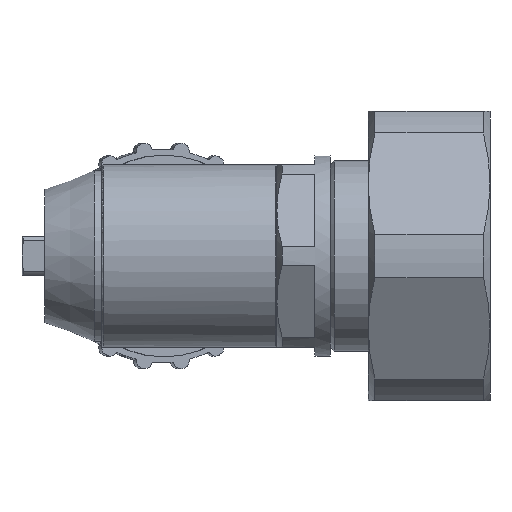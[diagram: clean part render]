
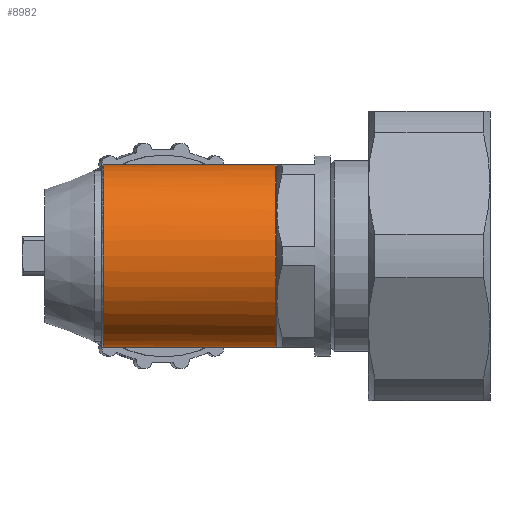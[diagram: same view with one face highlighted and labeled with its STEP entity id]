
A CAD part, left-side view. The second image highlights one B-rep face of the part: STEP entity #8982.
In plain terms, the highlighted cylindrical face has radius 12 mm (diameter 24 mm), a full revolution.
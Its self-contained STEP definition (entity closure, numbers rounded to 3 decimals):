
#8075=CARTESIAN_POINT('',(12.,16.2,0.));
#8076=VERTEX_POINT('',#8075);
#8077=CARTESIAN_POINT('',(0.0,16.2,0.0));
#8078=DIRECTION('',(0.0,-1.0,0.0));
#8079=DIRECTION('',(-1.0,0.0,0.0));
#8080=AXIS2_PLACEMENT_3D('',#8077,#8078,#8079);
#8081=CIRCLE('',#8080,12.);
#8082=EDGE_CURVE('',#8076,#8076,#8081,.T.);
#8841=CARTESIAN_POINT('',(9.162,29.763,7.75));
#8842=VERTEX_POINT('',#8841);
#8843=CARTESIAN_POINT('',(9.162,29.763,7.75));
#8844=CARTESIAN_POINT('',(9.162,30.807,7.75));
#8845=CARTESIAN_POINT('',(9.355,31.883,7.532));
#8846=CARTESIAN_POINT('',(9.954,33.842,6.722));
#8847=CARTESIAN_POINT('',(10.346,34.727,6.127));
#8848=CARTESIAN_POINT('',(11.03,36.118,4.784));
#8849=CARTESIAN_POINT('',(11.376,36.733,3.943));
#8850=CARTESIAN_POINT('',(11.863,37.571,2.055));
#8851=CARTESIAN_POINT('',(12.,37.791,1.007));
#8852=CARTESIAN_POINT('',(12.,37.791,-1.007));
#8853=CARTESIAN_POINT('',(11.863,37.571,-2.055));
#8854=CARTESIAN_POINT('',(11.376,36.733,-3.943));
#8855=CARTESIAN_POINT('',(11.03,36.118,-4.784));
#8856=CARTESIAN_POINT('',(10.346,34.727,-6.127));
#8857=CARTESIAN_POINT('',(9.954,33.842,-6.722));
#8858=CARTESIAN_POINT('',(9.355,31.883,-7.532));
#8859=CARTESIAN_POINT('',(9.162,30.807,-7.75));
#8860=CARTESIAN_POINT('',(9.162,28.77,-7.75));
#8861=CARTESIAN_POINT('',(9.341,27.741,-7.549));
#8862=CARTESIAN_POINT('',(9.925,25.895,-6.763));
#8863=CARTESIAN_POINT('',(10.315,25.072,-6.179));
#8864=CARTESIAN_POINT('',(11.01,23.768,-4.834));
#8865=CARTESIAN_POINT('',(11.366,23.196,-3.974));
#8866=CARTESIAN_POINT('',(11.863,22.428,-2.06));
#8867=CARTESIAN_POINT('',(12.,22.232,-1.004));
#8868=CARTESIAN_POINT('',(12.,22.232,1.004));
#8869=CARTESIAN_POINT('',(11.863,22.428,2.06));
#8870=CARTESIAN_POINT('',(11.366,23.196,3.974));
#8871=CARTESIAN_POINT('',(11.01,23.768,4.834));
#8872=CARTESIAN_POINT('',(10.315,25.072,6.179));
#8873=CARTESIAN_POINT('',(9.925,25.895,6.763));
#8874=CARTESIAN_POINT('',(9.341,27.741,7.549));
#8875=CARTESIAN_POINT('',(9.162,28.77,7.75));
#8876=CARTESIAN_POINT('',(9.162,29.763,7.75));
#8877=B_SPLINE_CURVE_WITH_KNOTS('',3,(#8843,#8844,#8845,#8846,#8847,#8848,#8849,#8850,#8851,#8852,#8853,#8854,#8855,#8856,#8857,#8858,#8859,#8860,#8861,#8862,#8863,#8864,#8865,#8866,#8867,#8868,#8869,#8870,#8871,#8872,#8873,#8874,#8875,#8876),.UNSPECIFIED.,.T.,.U.,(4,2,2,2,2,2,2,2,2,2,2,2,2,2,2,2,4),(0.0,0.313,0.626,0.929,1.231,1.533,1.835,2.148,2.461,2.759,3.057,3.359,3.66,3.961,4.262,4.561,4.859),.UNSPECIFIED.);
#8878=EDGE_CURVE('',#8842,#8842,#8877,.T.);
#8902=CARTESIAN_POINT('',(11.963,38.8,0.942));
#8903=VERTEX_POINT('',#8902);
#8904=CARTESIAN_POINT('',(11.963,38.8,-0.942));
#8905=VERTEX_POINT('',#8904);
#8951=CARTESIAN_POINT('',(0.0,38.8,0.0));
#8952=DIRECTION('',(0.0,1.0,0.0));
#8953=DIRECTION('',(-1.0,0.0,0.0));
#8954=AXIS2_PLACEMENT_3D('',#8951,#8952,#8953);
#8955=CIRCLE('',#8954,12.);
#8956=EDGE_CURVE('',#8905,#8903,#8955,.T.);
#8961=CARTESIAN_POINT('',(0.0,27.5,0.0));
#8962=DIRECTION('',(0.0,1.0,0.0));
#8963=DIRECTION('',(1.0,0.0,0.0));
#8964=AXIS2_PLACEMENT_3D('',#8961,#8962,#8963);
#8965=CYLINDRICAL_SURFACE('',#8964,12.);
#8966=ORIENTED_EDGE('',*,*,#8082,.F.);
#8967=EDGE_LOOP('',(#8966));
#8968=FACE_OUTER_BOUND('',#8967,.T.);
#8969=CARTESIAN_POINT('',(0.0,175.537,0.0));
#8970=DIRECTION('',(-0.996,-0.087,0.));
#8971=DIRECTION('',(0.087,-0.996,0.));
#8972=AXIS2_PLACEMENT_3D('',#8969,#8970,#8971);
#8973=ELLIPSE('',#8972,137.685,12.);
#8974=EDGE_CURVE('',#8905,#8903,#8973,.T.);
#8975=ORIENTED_EDGE('',*,*,#8974,.T.);
#8976=ORIENTED_EDGE('',*,*,#8956,.F.);
#8977=EDGE_LOOP('',(#8975,#8976));
#8978=FACE_BOUND('',#8977,.T.);
#8979=ORIENTED_EDGE('',*,*,#8878,.T.);
#8980=EDGE_LOOP('',(#8979));
#8981=FACE_BOUND('',#8980,.T.);
#8982=ADVANCED_FACE('',(#8968,#8978,#8981),#8965,.T.);
